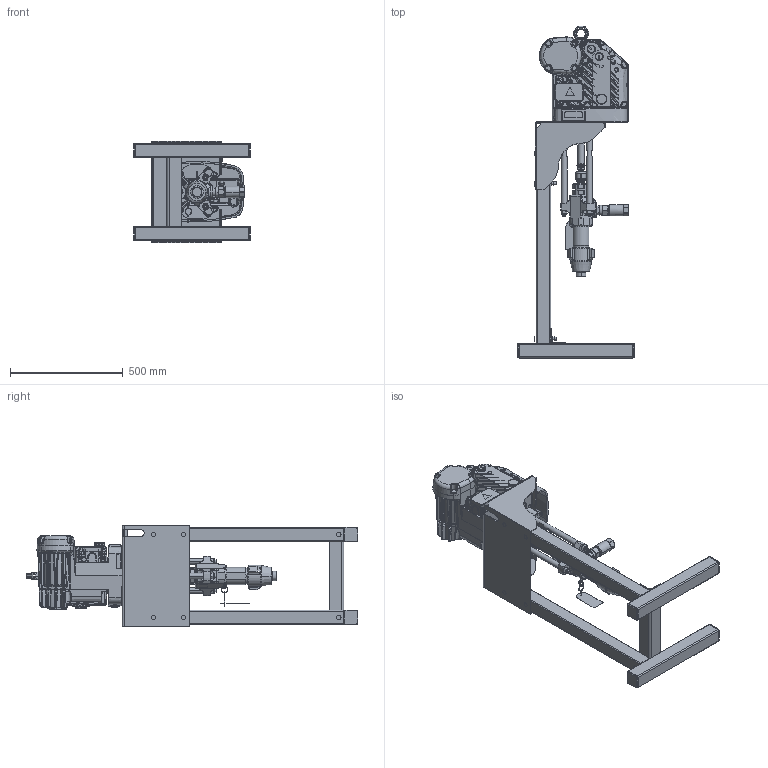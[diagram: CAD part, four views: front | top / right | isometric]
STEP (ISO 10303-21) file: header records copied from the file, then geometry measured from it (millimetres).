
FILE_DESCRIPTION((''),'2;1');
FILE_NAME('ES0340-EN-J_PRT','2022-02-21T16:06:32',('qtmwp1'),(''),'CREO PARAMETRIC BY PTC INC, 2021072','CREO PARAMETRIC BY PTC INC, 2021072','');
FILE_SCHEMA(('CONFIG_CONTROL_DESIGN'));
Products named in the file (1): ES0340-EN-J_PRT
Bounding box: 517.65 x 1474.36 x 450.85 mm (x, y, z)
Surface area: 3069688.9 mm2 (no closed solid volume)
Topology: 0 solids, 245 shells, 2455 faces, 10497 edges, 7940 vertices
Faces by surface type: plane 830, cylinder 696, bspline 418, cone 308, torus 171, extrusion 32
Entity records: 148670 total; most frequent: CARTESIAN_POINT 76144, ORIENTED_EDGE 14316, DIRECTION 12107, EDGE_CURVE 10497, VERTEX_POINT 7940, B_SPLINE_CURVE_WITH_KNOTS 5000, AXIS2_PLACEMENT_3D 4541, VECTOR 3025
